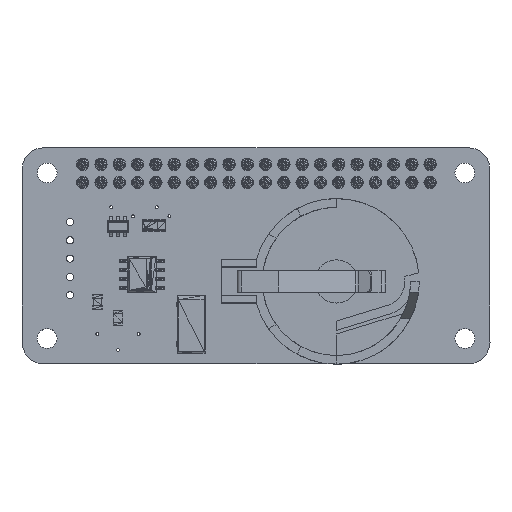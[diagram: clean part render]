
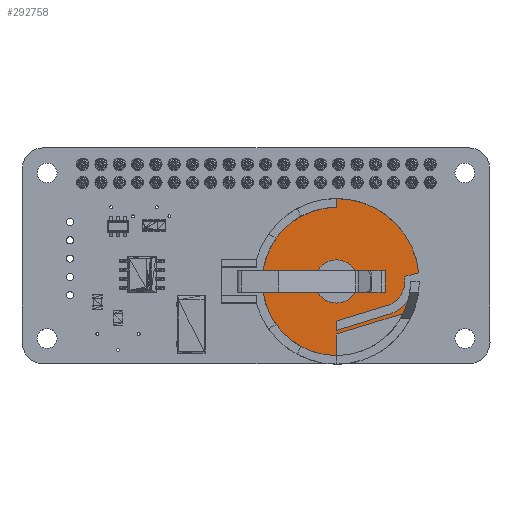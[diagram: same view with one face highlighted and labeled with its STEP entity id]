
A CAD part, top view. The second image highlights one B-rep face of the part: STEP entity #292758.
In plain terms, the highlighted planar face has unit normal (0, 0, 1).
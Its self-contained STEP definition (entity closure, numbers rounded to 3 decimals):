
#1101=FACE_BOUND('',#28042,.T.);
#1351=CIRCLE('',#319507,11.5);
#1352=CIRCLE('',#319512,9.521);
#1358=CIRCLE('',#319521,3.524);
#1359=CIRCLE('',#319525,10.3);
#1363=CIRCLE('',#319532,4.745);
#1368=CIRCLE('',#319541,3.);
#1369=CIRCLE('',#319542,3.);
#1375=CIRCLE('',#319558,10.3);
#1632=FACE_OUTER_BOUND('',#28041,.T.);
#28041=EDGE_LOOP('',(#187719,#187720,#187721,#187722,#187723,#187724,#187725,
#187726,#187727,#187728,#187729,#187730,#187731));
#28042=EDGE_LOOP('',(#187732,#187733));
#54388=LINE('',#439278,#93826);
#54401=LINE('',#439320,#93839);
#54406=LINE('',#439340,#93844);
#54409=LINE('',#439347,#93847);
#54430=LINE('',#439409,#93868);
#54431=LINE('',#439413,#93869);
#54432=LINE('',#439414,#93870);
#93826=VECTOR('',#346646,1.);
#93839=VECTOR('',#346687,1.);
#93844=VECTOR('',#346706,1.);
#93847=VECTOR('',#346715,1.);
#93868=VECTOR('',#346782,1.);
#93869=VECTOR('',#346787,1.);
#93870=VECTOR('',#346788,1.);
#133413=VERTEX_POINT('',#439259);
#133414=VERTEX_POINT('',#439261);
#133420=VERTEX_POINT('',#439277);
#133423=VERTEX_POINT('',#439287);
#133433=VERTEX_POINT('',#439311);
#133435=VERTEX_POINT('',#439319);
#133436=VERTEX_POINT('',#439323);
#133437=VERTEX_POINT('',#439324);
#133440=VERTEX_POINT('',#439330);
#133443=VERTEX_POINT('',#439339);
#133444=VERTEX_POINT('',#439343);
#133449=VERTEX_POINT('',#439361);
#133450=VERTEX_POINT('',#439362);
#133462=VERTEX_POINT('',#439407);
#133463=VERTEX_POINT('',#439412);
#147342=EDGE_CURVE('',#133413,#133414,#1351,.T.);
#147350=EDGE_CURVE('',#133414,#133420,#54388,.T.);
#147355=EDGE_CURVE('',#133423,#133420,#1352,.T.);
#147367=EDGE_CURVE('',#133433,#133423,#1358,.T.);
#147371=EDGE_CURVE('',#133435,#133433,#54401,.T.);
#147373=EDGE_CURVE('',#133436,#133437,#1359,.T.);
#147381=EDGE_CURVE('',#133443,#133435,#54406,.T.);
#147383=EDGE_CURVE('',#133444,#133437,#1363,.T.);
#147385=EDGE_CURVE('',#133444,#133443,#54409,.T.);
#147392=EDGE_CURVE('',#133449,#133450,#1368,.T.);
#147393=EDGE_CURVE('',#133450,#133449,#1369,.T.);
#147417=EDGE_CURVE('',#133462,#133413,#54430,.T.);
#147418=EDGE_CURVE('',#133462,#133440,#1375,.T.);
#147419=EDGE_CURVE('',#133440,#133463,#54431,.T.);
#147420=EDGE_CURVE('',#133463,#133436,#54432,.T.);
#187719=ORIENTED_EDGE('',*,*,#147373,.T.);
#187720=ORIENTED_EDGE('',*,*,#147383,.F.);
#187721=ORIENTED_EDGE('',*,*,#147385,.T.);
#187722=ORIENTED_EDGE('',*,*,#147381,.T.);
#187723=ORIENTED_EDGE('',*,*,#147371,.T.);
#187724=ORIENTED_EDGE('',*,*,#147367,.T.);
#187725=ORIENTED_EDGE('',*,*,#147355,.T.);
#187726=ORIENTED_EDGE('',*,*,#147350,.F.);
#187727=ORIENTED_EDGE('',*,*,#147342,.F.);
#187728=ORIENTED_EDGE('',*,*,#147417,.F.);
#187729=ORIENTED_EDGE('',*,*,#147418,.T.);
#187730=ORIENTED_EDGE('',*,*,#147419,.T.);
#187731=ORIENTED_EDGE('',*,*,#147420,.T.);
#187732=ORIENTED_EDGE('',*,*,#147392,.T.);
#187733=ORIENTED_EDGE('',*,*,#147393,.T.);
#266536=PLANE('',#319557);
#292758=ADVANCED_FACE('',(#1632,#1101),#266536,.F.);
#319507=AXIS2_PLACEMENT_3D('',#439262,#346633,#346634);
#319512=AXIS2_PLACEMENT_3D('',#439288,#346655,#346656);
#319521=AXIS2_PLACEMENT_3D('',#439312,#346678,#346679);
#319525=AXIS2_PLACEMENT_3D('',#439325,#346691,#346692);
#319532=AXIS2_PLACEMENT_3D('',#439344,#346710,#346711);
#319541=AXIS2_PLACEMENT_3D('',#439363,#346732,#346733);
#319542=AXIS2_PLACEMENT_3D('',#439364,#346734,#346735);
#319557=AXIS2_PLACEMENT_3D('',#439410,#346783,#346784);
#319558=AXIS2_PLACEMENT_3D('',#439411,#346785,#346786);
#346633=DIRECTION('center_axis',(0.,0.,-1.));
#346634=DIRECTION('ref_axis',(1.,0.,0.));
#346646=DIRECTION('',(-0.965,-0.263,0.));
#346655=DIRECTION('center_axis',(0.,0.,1.));
#346656=DIRECTION('ref_axis',(1.,0.,0.));
#346678=DIRECTION('center_axis',(0.,0.,1.));
#346679=DIRECTION('ref_axis',(1.,0.,0.));
#346687=DIRECTION('',(0.956,0.293,0.));
#346691=DIRECTION('center_axis',(0.,0.,1.));
#346692=DIRECTION('ref_axis',(1.,0.,0.));
#346706=DIRECTION('',(0.,1.,0.));
#346710=DIRECTION('center_axis',(0.,0.,1.));
#346711=DIRECTION('ref_axis',(1.,0.,0.));
#346715=DIRECTION('',(-0.956,-0.293,0.));
#346732=DIRECTION('center_axis',(0.,0.,-1.));
#346733=DIRECTION('ref_axis',(1.,0.,0.));
#346734=DIRECTION('center_axis',(0.,0.,-1.));
#346735=DIRECTION('ref_axis',(1.,0.,0.));
#346782=DIRECTION('',(0.,1.,0.));
#346783=DIRECTION('center_axis',(0.,0.,-1.));
#346784=DIRECTION('ref_axis',(0.,-1.,0.));
#346785=DIRECTION('center_axis',(0.,0.,1.));
#346786=DIRECTION('ref_axis',(1.,0.,0.));
#346787=DIRECTION('',(0.,1.,0.));
#346788=DIRECTION('',(0.956,0.292,0.));
#439259=CARTESIAN_POINT('',(3.503,11.5,3.45));
#439261=CARTESIAN_POINT('',(14.94,1.204,3.45));
#439262=CARTESIAN_POINT('Origin',(3.503,0.,3.45));
#439277=CARTESIAN_POINT('',(13.,0.675,3.45));
#439278=CARTESIAN_POINT('',(15.038,1.23,3.45));
#439287=CARTESIAN_POINT('',(13.024,0.,3.45));
#439288=CARTESIAN_POINT('Origin',(3.503,0.,3.45));
#439311=CARTESIAN_POINT('',(10.9,-3.234,3.45));
#439312=CARTESIAN_POINT('Origin',(9.5,0.,3.45));
#439319=CARTESIAN_POINT('',(3.503,-5.5,3.45));
#439320=CARTESIAN_POINT('',(3.503,-5.5,3.45));
#439323=CARTESIAN_POINT('',(12.787,-4.462,3.45));
#439324=CARTESIAN_POINT('',(13.47,-2.6,3.45));
#439325=CARTESIAN_POINT('Origin',(3.503,0.,3.45));
#439330=CARTESIAN_POINT('',(3.503,-10.3,3.45));
#439339=CARTESIAN_POINT('',(3.503,-6.8,3.45));
#439340=CARTESIAN_POINT('',(3.503,-6.8,3.45));
#439343=CARTESIAN_POINT('',(10.9,-4.534,3.45));
#439344=CARTESIAN_POINT('Origin',(9.5,0.,3.45));
#439347=CARTESIAN_POINT('',(10.9,-4.534,3.45));
#439361=CARTESIAN_POINT('',(6.503,0.,3.45));
#439362=CARTESIAN_POINT('',(0.503,0.,3.45));
#439363=CARTESIAN_POINT('Origin',(3.503,0.,3.45));
#439364=CARTESIAN_POINT('Origin',(3.503,0.,3.45));
#439407=CARTESIAN_POINT('',(3.503,10.3,3.45));
#439409=CARTESIAN_POINT('',(3.503,10.25,3.45));
#439410=CARTESIAN_POINT('Origin',(12.409,-5.175,3.45));
#439411=CARTESIAN_POINT('Origin',(3.503,0.,3.45));
#439412=CARTESIAN_POINT('',(3.503,-7.3,3.45));
#439413=CARTESIAN_POINT('',(3.503,-10.3,3.45));
#439414=CARTESIAN_POINT('',(3.503,-7.3,3.45));
